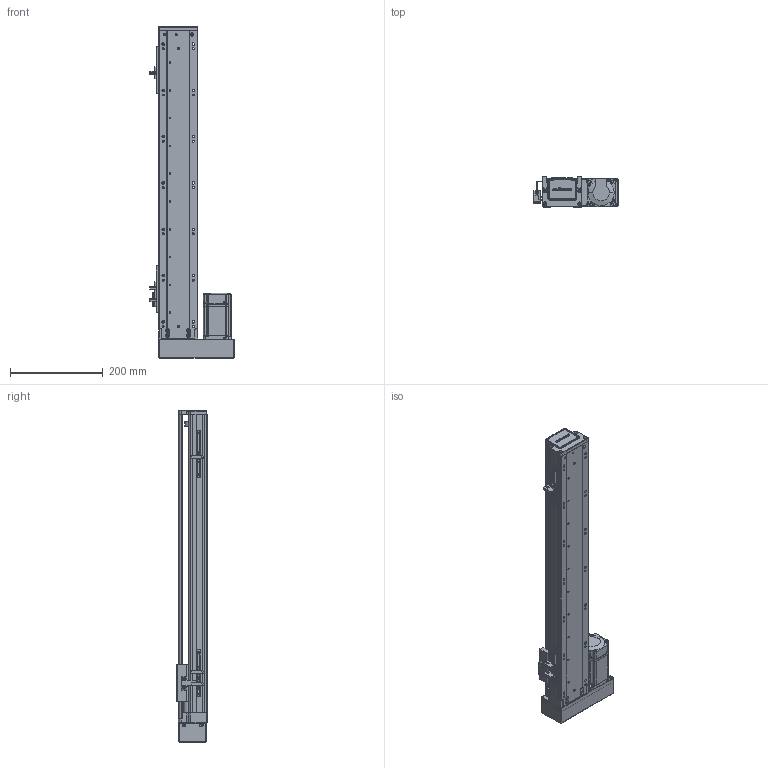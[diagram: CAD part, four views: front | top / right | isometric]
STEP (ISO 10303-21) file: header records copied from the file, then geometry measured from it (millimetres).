
FILE_DESCRIPTION (( 'STEP AP203' ), '1' );
FILE_NAME ('RY80-L1620-300-LK.SLDASM_500.step', '2021-02-20T07:16:52', ( '盈信电脑' ), ( '东莞市道滘镇水果街19号' ), 'SwSTEP 2.0', 'SolidWorks 2012', '' );
FILE_SCHEMA (( 'CONFIG_CONTROL_DESIGN' ));
Length unit declared in the file: millimetre
Products named in the file (15): RY80-L1620-300-LK.SLDASM_500; RY80俋离覜茼え; 滅袉蝶18-24; RY80酘殏俋欶; 覜茼ん672; T倰羞; RY80转接电机端支撑座; 1; 侂狟200W萇儂; RY80酘莞萇儂假蚾啣; RY80臏賑輸; 滅袉蝶18-10; RY80綴裔啣; RY80-300蛌諉倰第奻裔啣-LK_500; RY80-300蛌諉倰第菁釱-LK_500
Assembly tree (17 placements, depth 3):
  RY80-L1620-300-LK.SLDASM_500
    RY80-300蛌諉倰第菁釱-LK_500
    RY80臏賑輸
    RY80-300蛌諉倰第奻裔啣-LK_500
    RY80綴裔啣
    滅袉蝶18-10
    RY80转接电机端支撑座
    侂狟200W萇儂
      1
    RY80酘莞萇儂假蚾啣
    RY80酘殏俋欶
    覜茼ん672  x3
    T倰羞  x2
    RY80俋离覜茼え
    滅袉蝶18-24
Bounding box: 181.7 x 65 x 717 mm (x, y, z)
Volume: 1495854.3 mm3; surface area: 582135.6 mm2
Topology: 16 solids, 16 shells, 2188 faces, 6035 edges, 3909 vertices
Faces by surface type: plane 1179, cylinder 808, cone 139, bspline 62
Entity records: 69783 total; most frequent: CARTESIAN_POINT 17969, ORIENTED_EDGE 10758, DIRECTION 9980, EDGE_CURVE 5379, VERTEX_POINT 3525, AXIS2_PLACEMENT_3D 3336, VECTOR 3308, LINE 3308
